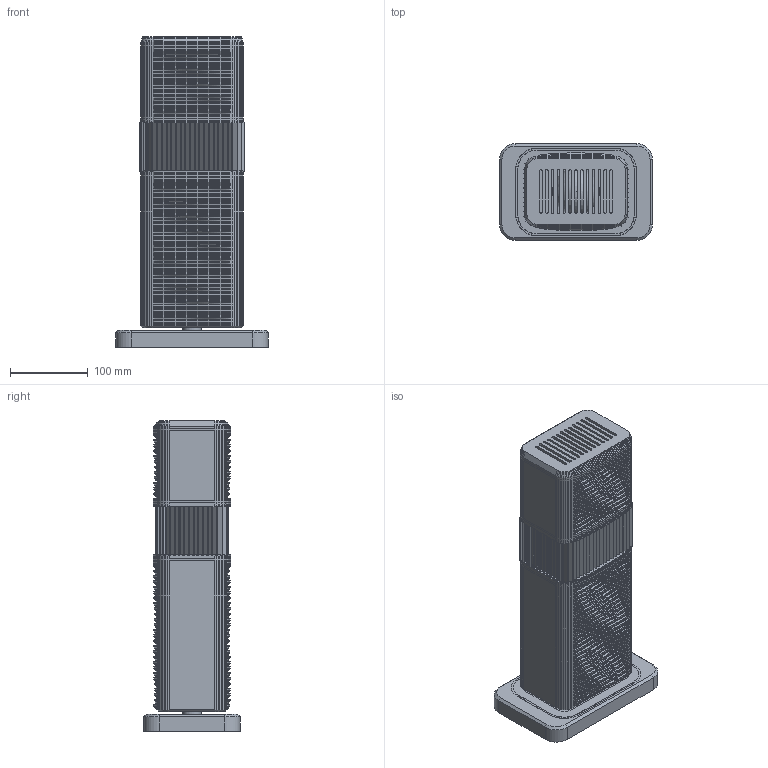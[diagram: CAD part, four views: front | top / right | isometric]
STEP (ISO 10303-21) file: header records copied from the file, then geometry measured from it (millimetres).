
FILE_DESCRIPTION(('Open CASCADE Model'),'2;1');
FILE_NAME('Open CASCADE Shape Model','2026-10-16T13:32:13',('Author'),( 'Open CASCADE'),'Open CASCADE STEP processor 7.9','Open CASCADE 7.9' ,'Unknown');
FILE_SCHEMA(('AUTOMOTIVE_DESIGN { 1 0 10303 214 1 1 1 1 }'));
Length unit declared in the file: millimetre
Products named in the file (15): monolite; base_corpo; base_fondo; intarsio_base; colonna_interna; corpo_inferiore; corpo_collare_1; corpo_fascia; diffusore; corpo_collare_2; corpo_superiore; corpo_collare_3; corpo_cappello; _portalampada; _lampadina
Assembly tree (14 placements, depth 2):
  monolite
    base_corpo
    base_fondo
    intarsio_base
    colonna_interna
    corpo_inferiore
    corpo_collare_1
    corpo_fascia
    diffusore
    corpo_collare_2
    corpo_superiore
    corpo_collare_3
    corpo_cappello
    _portalampada
    _lampadina
Bounding box: 196 x 124 x 399 mm (x, y, z)
Volume: 973123.7 mm3; surface area: 640630.8 mm2
Topology: 17 solids, 17 shells, 19917 faces, 43574 edges, 23575 vertices
Faces by surface type: bspline 11235, plane 8595, cylinder 81, cone 5, sphere 1
Full cylindrical faces by diameter (mm): 2.6 x4, 3.4 x4, 6.4 x4, 7.5 x1, 9 x1, 10 x5, 10.4 x4, 10.6 x1, 12 x1, 24 x1, 26 x1, 32 x2, 40 x1
Entity records: 1038782 total; most frequent: CARTESIAN_POINT 250955, DIRECTION 106838, LINE 88996, VECTOR 88996, ORIENTED_EDGE 87146, PCURVE 87146, DEFINITIONAL_REPRESENTATION 87146, EDGE_CURVE 43573
